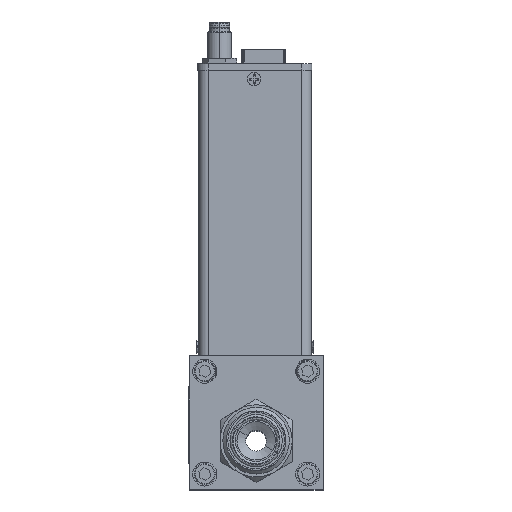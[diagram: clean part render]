
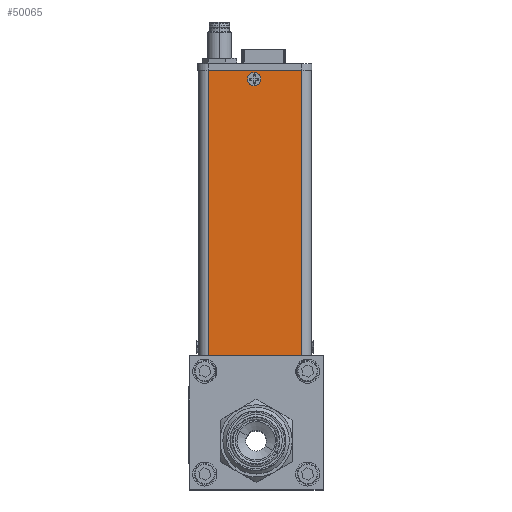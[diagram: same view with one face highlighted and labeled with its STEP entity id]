
A CAD part, top view. The second image highlights one B-rep face of the part: STEP entity #50065.
In plain terms, the highlighted planar face has unit normal (0, 0, 1).
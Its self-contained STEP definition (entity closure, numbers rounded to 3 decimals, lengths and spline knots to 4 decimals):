
#199 = LINE ( 'NONE', #32254, #40506 ) ;
#841 = CIRCLE ( 'NONE', #43873, 0.063 ) ;
#2614 = CARTESIAN_POINT ( 'NONE',  ( -0.6261, 1.7399, -0.095 ) ) ;
#2659 = CARTESIAN_POINT ( 'NONE',  ( -0.0264, 5.3993, -0.0959 ) ) ;
#3569 = EDGE_CURVE ( 'NONE', #18185, #43559, #40550, .T. ) ;
#3901 = LINE ( 'NONE', #13759, #55468 ) ;
#4313 = CARTESIAN_POINT ( 'NONE',  ( -0.6261, 5.4544, -0.0959 ) ) ;
#4679 = PLANE ( 'NONE',  #48010 ) ;
#4971 = CARTESIAN_POINT ( 'NONE',  ( -0.0166, 1.7399, -0.095 ) ) ;
#5423 = EDGE_LOOP ( 'NONE', ( #54767, #32327, #20133, #49687 ) ) ;
#6730 = CARTESIAN_POINT ( 'NONE',  ( -0.6261, 1.7399, -0.095 ) ) ;
#8861 = EDGE_CURVE ( 'NONE', #56243, #9231, #30742, .T. ) ;
#9231 = VERTEX_POINT ( 'NONE', #6730 ) ;
#9478 = FACE_BOUND ( 'NONE', #40432, .T. ) ;
#9500 = DIRECTION ( 'NONE',  ( 1., 0., 0. ) ) ;
#9685 = DIRECTION ( 'NONE',  ( 0., 0., -1. ) ) ;
#12131 = VECTOR ( 'NONE', #35524, 39.3701 ) ;
#13759 = CARTESIAN_POINT ( 'NONE',  ( 0.5929, 1.7399, -0.095 ) ) ;
#14024 = EDGE_CURVE ( 'NONE', #22328, #9231, #44242, .T. ) ;
#17827 = DIRECTION ( 'NONE',  ( 0., -1., 0. ) ) ;
#18116 = CARTESIAN_POINT ( 'NONE',  ( -0.0264, 5.3363, -0.0959 ) ) ;
#18185 = VERTEX_POINT ( 'NONE', #2659 ) ;
#20133 = ORIENTED_EDGE ( 'NONE', *, *, #31716, .F. ) ;
#21406 = AXIS2_PLACEMENT_3D ( 'NONE', #32735, #9685, #46828 ) ;
#22328 = VERTEX_POINT ( 'NONE', #4313 ) ;
#22987 = CARTESIAN_POINT ( 'NONE',  ( 0.5929, 5.4544, -0.0959 ) ) ;
#25920 = ORIENTED_EDGE ( 'NONE', *, *, #29623, .T. ) ;
#28412 = CARTESIAN_POINT ( 'NONE',  ( -0.0264, 5.2733, -0.0959 ) ) ;
#29597 = VECTOR ( 'NONE', #48135, 39.3701 ) ;
#29623 = EDGE_CURVE ( 'NONE', #43559, #18185, #841, .T. ) ;
#30742 = LINE ( 'NONE', #39729, #12131 ) ;
#31716 = EDGE_CURVE ( 'NONE', #22328, #46188, #199, .T. ) ;
#31893 = DIRECTION ( 'NONE',  ( 0., 0., -1. ) ) ;
#32254 = CARTESIAN_POINT ( 'NONE',  ( -0.0166, 5.4544, -0.0959 ) ) ;
#32327 = ORIENTED_EDGE ( 'NONE', *, *, #45667, .F. ) ;
#32735 = CARTESIAN_POINT ( 'NONE',  ( -0.0264, 5.3363, -0.0959 ) ) ;
#32813 = DIRECTION ( 'NONE',  ( 0., 0., 1. ) ) ;
#35524 = DIRECTION ( 'NONE',  ( -1., 0., 0. ) ) ;
#37422 = CARTESIAN_POINT ( 'NONE',  ( 0.5929, 1.7399, -0.095 ) ) ;
#39729 = CARTESIAN_POINT ( 'NONE',  ( -0.0166, 1.7399, -0.095 ) ) ;
#40432 = EDGE_LOOP ( 'NONE', ( #25920, #55034 ) ) ;
#40506 = VECTOR ( 'NONE', #9500, 39.3701 ) ;
#40550 = CIRCLE ( 'NONE', #21406, 0.063 ) ;
#41524 = DIRECTION ( 'NONE',  ( 0., 1., 0. ) ) ;
#41831 = FACE_OUTER_BOUND ( 'NONE', #5423, .T. ) ;
#43559 = VERTEX_POINT ( 'NONE', #28412 ) ;
#43873 = AXIS2_PLACEMENT_3D ( 'NONE', #18116, #31893, #17827 ) ;
#44242 = LINE ( 'NONE', #2614, #29597 ) ;
#45667 = EDGE_CURVE ( 'NONE', #46188, #56243, #3901, .T. ) ;
#46188 = VERTEX_POINT ( 'NONE', #22987 ) ;
#46828 = DIRECTION ( 'NONE',  ( 0., -1., 0. ) ) ;
#48010 = AXIS2_PLACEMENT_3D ( 'NONE', #4971, #32813, #41524 ) ;
#48135 = DIRECTION ( 'NONE',  ( 0., -1., 0. ) ) ;
#49687 = ORIENTED_EDGE ( 'NONE', *, *, #14024, .T. ) ;
#50065 = ADVANCED_FACE ( 'NONE', ( #41831, #9478 ), #4679, .T. ) ;
#50318 = DIRECTION ( 'NONE',  ( 0., -1., 0. ) ) ;
#54767 = ORIENTED_EDGE ( 'NONE', *, *, #8861, .F. ) ;
#55034 = ORIENTED_EDGE ( 'NONE', *, *, #3569, .T. ) ;
#55468 = VECTOR ( 'NONE', #50318, 39.3701 ) ;
#56243 = VERTEX_POINT ( 'NONE', #37422 ) ;
